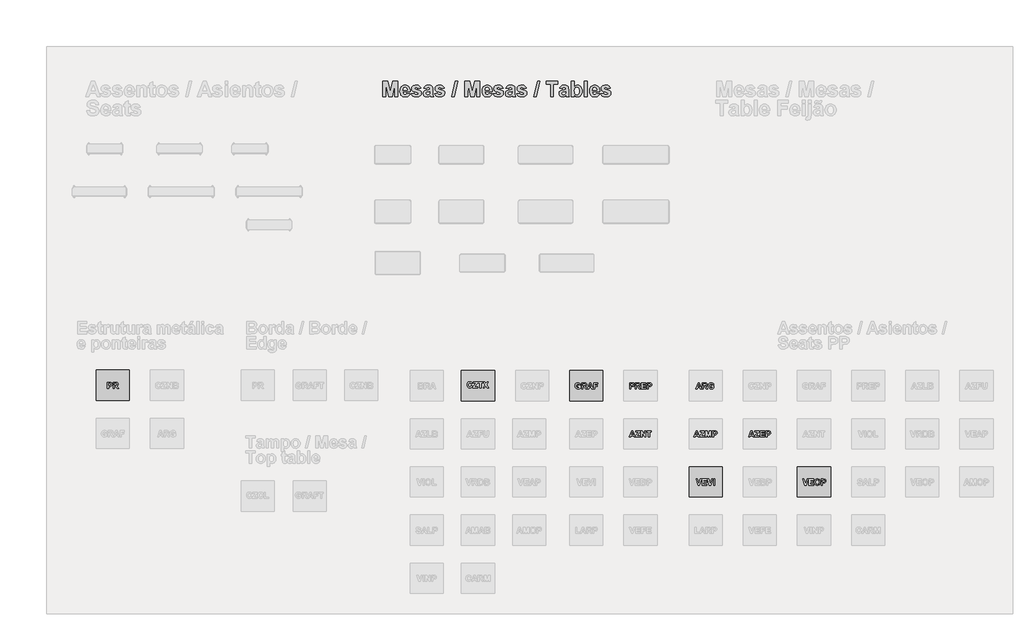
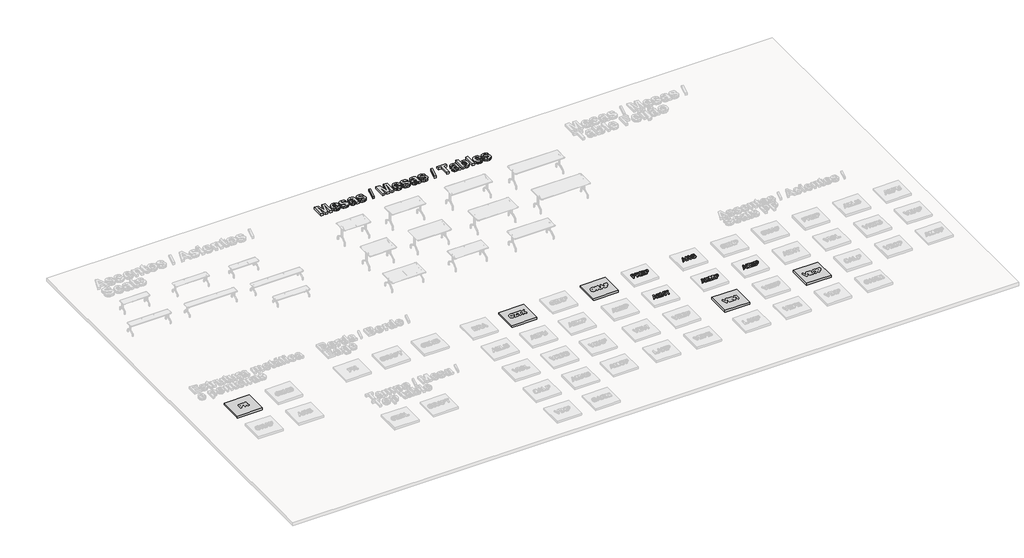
# One storey, part 8 of 11: 11 proxies.
"""IFC4 building model written with IfcOpenShell, lengths in millimetres."""

from ifc_helpers import new_model, si_unit, frame, origin, origin_with_axes, place, context, project, spatial, polyline, outline, extrude, transform, mapped, element, save
from components import generic_models_11_generic_models_1_9f7aef5a, generic_models_13_generic_models_1_7978a0e2, generic_models_16_generic_models_1_5fc1a513, generic_models_51_generic_models_1_611fd263, generic_models_52_generic_models_1_02ef8fb8

model = new_model("IFC4")

# Units and contexts
model_context = context("Model", 3, world=origin())
ifc_project = project(units=[si_unit("LENGTHUNIT", "METRE", prefix="MILLI")], contexts=[model_context])

# Site, building, storey
site = spatial("IfcSite", under=ifc_project)
building = spatial("IfcBuilding", under=site)
storey = spatial("IfcBuildingStorey", under=building, Name="Biblioteca BIM Revit Metadil - Refeitório", Elevation=0.0)

# Proxies
placement = place(None, origin())
element("IfcBuildingElementProxy", 1, Name="Arial 200mm", ObjectType="Arial 200mm", at=placement, inside=storey, context=model_context, shape_type="SweptSolid", body=[
    extrude(outline(polyline([(758.6917836, 1948.6533221), (758.6917836, 2152.7052021), (824.4317122, 2152.7052021), (873.1673174, 2149.6687158), (889.2037607, 2142.4254307), (902.3934981, 2129.8050345), (911.2182865, 2112.2756521), (914.1598826, 2090.3054084), (912.432881, 2073.1176307), (907.2518762, 2058.9030792), (899.4076199, 2047.5415596), (889.6908638, 2038.9128776), (868.0558988, 2029.2720336), (824.7859689, 2026.3873716), (797.5588083, 2026.3873716), (797.5588083, 1948.6533221), (758.6917836, 1948.6533221)]), holes=[polyline([(797.5588083, 2117.077096), (797.5588083, 2062.0154776), (821.6988745, 2062.0154776), (856.5425549, 2065.0519639), (870.3079595, 2074.5915918), (875.2928578, 2089.6981112), (873.5405522, 2099.3516072), (868.2836353, 2107.1579074), (850.5961025, 2115.7612853), (818.8648206, 2117.077096), (797.5588083, 2117.077096)])]), frame((0.0, 0.0, 100.0), z_axis=(0.0, 0.0, 1.0), x_axis=(1.0, 0.0, 0.0)), (0.0, 0.0, 1.0), 50.0),
    extrude(outline(polyline([(946.5490699, 1948.6533221), (946.5490699, 2152.7052021), (1032.3804162, 2152.7052021), (1060.3413943, 2151.3261312), (1079.445954, 2147.1889186), (1092.6546695, 2139.5217907), (1102.9281148, 2127.5529738), (1109.5324726, 2112.4084983), (1111.7339251, 2095.2143946), (1108.5519405, 2074.1487708), (1099.0059867, 2057.1064914), (1083.1213677, 2044.85933), (1060.9233876, 2038.1790601), (1081.3184539, 2021.1747368), (1102.9787229, 1988.2288603), (1127.9285188, 1948.6533221), (1082.5330485, 1948.6533221), (1052.977915, 1995.2633869), (1029.7740988, 2022.9207164), (1016.5147753, 2030.7396686), (994.3231212, 2032.8652091), (985.4160947, 2032.8652091), (985.4160947, 1948.6533221), (946.5490699, 1948.6533221)]), holes=[polyline([(985.4160947, 2068.4933151), (1017.4510252, 2068.4933151), (1056.343354, 2070.846592), (1068.4892993, 2078.9438888), (1072.8669004, 2093.2912866), (1071.4245694, 2102.0275108), (1067.0975764, 2108.9038871), (1050.8017665, 2116.4191907), (1019.2223089, 2117.077096), (985.4160947, 2117.077096), (985.4160947, 2068.4933151)])]), frame((0.0, 0.0, 100.0), z_axis=(0.0, 0.0, 1.0), x_axis=(1.0, 0.0, 0.0)), (0.0, 0.0, 1.0), 50.0),
    extrude(outline(polyline([(1150.6009499, 1948.6533221), (1150.6009499, 2152.7052021), (1302.8301302, 2152.7052021), (1302.8301302, 2117.077096), (1189.4679746, 2117.077096), (1189.4679746, 2071.7322338), (1296.3522927, 2071.7322338), (1296.3522927, 2036.1041278), (1189.4679746, 2036.1041278), (1189.4679746, 1984.2814281), (1306.0690489, 1984.2814281), (1306.0690489, 1948.6533221), (1150.6009499, 1948.6533221)])), frame((0.0, 0.0, 100.0), z_axis=(0.0, 0.0, 1.0), x_axis=(1.0, 0.0, 0.0)), (0.0, 0.0, 1.0), 50.0),
    extrude(outline(polyline([(1338.4582362, 1948.6533221), (1338.4582362, 2152.7052021), (1404.1981648, 2152.7052021), (1452.9337701, 2149.6687158), (1468.9702134, 2142.4254307), (1482.1599508, 2129.8050345), (1490.9847392, 2112.2756521), (1493.9263353, 2090.3054084), (1492.1993337, 2073.1176307), (1487.0183289, 2058.9030792), (1479.1740726, 2047.5415596), (1469.4573164, 2038.9128776), (1447.8223515, 2029.2720336), (1404.5524216, 2026.3873716), (1377.325261, 2026.3873716), (1377.325261, 1948.6533221), (1338.4582362, 1948.6533221)]), holes=[polyline([(1377.325261, 2117.077096), (1377.325261, 2062.0154776), (1401.4653272, 2062.0154776), (1436.3090076, 2065.0519639), (1450.0744122, 2074.5915918), (1455.0593105, 2089.6981112), (1453.3070049, 2099.3516072), (1448.0500879, 2107.1579074), (1430.3625552, 2115.7612853), (1398.6312733, 2117.077096), (1377.325261, 2117.077096)])]), frame((0.0, 0.0, 100.0), z_axis=(0.0, 0.0, 1.0), x_axis=(1.0, 0.0, 0.0)), (0.0, 0.0, 1.0), 50.0),
])
element("IfcBuildingElementProxy", 2, Name="Arial 200mm", ObjectType="Arial 200mm", at=placement, inside=storey, context=model_context, shape_type="SweptSolid", body=[
    extrude(outline(polyline([(946.5490699, 348.6533221), (905.708329, 348.6533221), (889.7161678, 393.9981843), (812.6400237, 393.9981843), (796.8502948, 348.6533221), (755.4528648, 348.6533221), (829.9479956, 552.7052021), (871.3454256, 552.7052021), (946.5490699, 348.6533221)]), holes=[polyline([(877.2665739, 429.6262903), (851.0009674, 504.1214211), (825.0896175, 429.6262903), (877.2665739, 429.6262903)])]), frame((0.0, 0.0, 100.0), z_axis=(0.0, 0.0, 1.0), x_axis=(1.0, 0.0, 0.0)), (0.0, 0.0, 1.0), 50.0),
    extrude(outline(polyline([(949.7879886, 348.6533221), (949.7879886, 387.5203468), (1059.1521039, 517.077096), (962.7436635, 517.077096), (962.7436635, 552.7052021), (1108.4950064, 552.7052021), (1108.4950064, 517.077096), (996.3980535, 384.2814281), (1111.7339251, 384.2814281), (1111.7339251, 348.6533221), (949.7879886, 348.6533221)])), frame((0.0, 0.0, 100.0), z_axis=(0.0, 0.0, 1.0), x_axis=(1.0, 0.0, 0.0)), (0.0, 0.0, 1.0), 50.0),
    extrude(outline(polyline([(1137.645275, 348.6533221), (1137.645275, 552.7052021), (1178.3847996, 552.7052021), (1263.9631054, 415.3548047), (1263.9631054, 552.7052021), (1302.8301302, 552.7052021), (1302.8301302, 348.6533221), (1260.8254029, 348.6533221), (1176.5122997, 483.9793953), (1176.5122997, 348.6533221), (1137.645275, 348.6533221)])), frame((0.0, 0.0, 100.0), z_axis=(0.0, 0.0, 1.0), x_axis=(1.0, 0.0, 0.0)), (0.0, 0.0, 1.0), 50.0),
    extrude(outline(polyline([(1387.0420172, 348.6533221), (1387.0420172, 517.077096), (1328.74148, 517.077096), (1328.74148, 552.7052021), (1484.2095791, 552.7052021), (1484.2095791, 517.077096), (1425.9090419, 517.077096), (1425.9090419, 348.6533221), (1387.0420172, 348.6533221)])), frame((0.0, 0.0, 100.0), z_axis=(0.0, 0.0, 1.0), x_axis=(1.0, 0.0, 0.0)), (0.0, 0.0, 1.0), 50.0),
])
element("IfcBuildingElementProxy", 3, Name="Arial 200mm", ObjectType="Arial 200mm", at=placement, inside=storey, context=model_context, shape_type="SweptSolid", body=[
    extrude(outline(polyline([(3154.4389795, 1948.6533221), (3113.5982386, 1948.6533221), (3097.6060774, 1993.9981843), (3020.5299333, 1993.9981843), (3004.7402044, 1948.6533221), (2963.3427744, 1948.6533221), (3037.8379052, 2152.7052021), (3079.2353352, 2152.7052021), (3154.4389795, 1948.6533221)]), holes=[polyline([(3085.1564835, 2029.6262903), (3058.890877, 2104.1214211), (3032.9795271, 2029.6262903), (3085.1564835, 2029.6262903)])]), frame((0.0, 0.0, 100.0), z_axis=(0.0, 0.0, 1.0), x_axis=(1.0, 0.0, 0.0)), (0.0, 0.0, 1.0), 50.0),
    extrude(outline(polyline([(3173.8724919, 1948.6533221), (3173.8724919, 2152.7052021), (3259.7038382, 2152.7052021), (3287.6648163, 2151.3261312), (3306.769376, 2147.1889186), (3319.9780915, 2139.5217907), (3330.2515368, 2127.5529738), (3336.8558945, 2112.4084983), (3339.0573471, 2095.2143946), (3335.8753625, 2074.1487708), (3326.3294087, 2057.1064914), (3310.4447897, 2044.85933), (3288.2468095, 2038.1790601), (3308.6418759, 2021.1747368), (3330.3021449, 1988.2288603), (3355.2519408, 1948.6533221), (3309.8564704, 1948.6533221), (3280.301337, 1995.2633869), (3257.0975208, 2022.9207164), (3243.8381973, 2030.7396686), (3221.6465431, 2032.8652091), (3212.7395166, 2032.8652091), (3212.7395166, 1948.6533221), (3173.8724919, 1948.6533221)]), holes=[polyline([(3212.7395166, 2068.4933151), (3244.7744472, 2068.4933151), (3283.666776, 2070.846592), (3295.8127213, 2078.9438888), (3300.1903224, 2093.2912866), (3298.7479914, 2102.0275108), (3294.4209984, 2108.9038871), (3278.1251885, 2116.4191907), (3246.5457309, 2117.077096), (3212.7395166, 2117.077096), (3212.7395166, 2068.4933151)])]), frame((0.0, 0.0, 100.0), z_axis=(0.0, 0.0, 1.0), x_axis=(1.0, 0.0, 0.0)), (0.0, 0.0, 1.0), 50.0),
    extrude(outline(polyline([(3471.853015, 2023.1484529), (3471.853015, 2058.7765589), (3559.3038208, 2058.7765589), (3559.3038208, 1977.3987258), (3543.6912203, 1965.461539), (3522.359904, 1955.0552474), (3498.0174054, 1947.8246144), (3473.3712582, 1945.4144034), (3443.904689, 1948.7671903), (3418.4614641, 1958.8255512), (3397.9398775, 1975.1150351), (3383.2382229, 1997.1611909), (3374.3944565, 2023.1800829), (3371.4465344, 2051.3877755), (3374.7803433, 2081.4047079), (3384.7817701, 2107.891725), (3401.2104263, 2129.7354483), (3423.8259232, 2145.8224998), (3445.8151449, 2153.4137155), (3472.6121366, 2155.9441208), (3506.3740688, 2151.8575163), (3531.8489237, 2139.5977028), (3549.3783061, 2120.1262344), (3559.3038208, 2094.4046649), (3520.436796, 2087.9268275), (3513.8956984, 2101.3696054), (3503.3818646, 2111.6367247), (3489.3254633, 2118.1461923), (3472.1566637, 2120.3160148), (3446.7134388, 2116.077586), (3427.064842, 2103.3622995), (3414.5013799, 2082.2966758), (3410.3135592, 2053.0072349), (3414.4760758, 2021.5226675), (3426.9636258, 1999.0336908), (3446.2073578, 1985.5403047), (3470.6384205, 1981.0425094), (3497.3848041, 1985.9767996), (3520.436796, 1997.9456165), (3520.436796, 2023.1484529), (3471.853015, 2023.1484529)])), frame((0.0, 0.0, 100.0), z_axis=(0.0, 0.0, 1.0), x_axis=(1.0, 0.0, 0.0)), (0.0, 0.0, 1.0), 50.0),
])
element("IfcBuildingElementProxy", 4, Name="Arial 200mm", ObjectType="Arial 200mm", at=placement, inside=storey, context=model_context, shape_type="SweptSolid", body=[
    extrude(outline(polyline([(3084.7117238, 348.6533221), (3043.870983, 348.6533221), (3027.8788218, 393.9981843), (2950.8026776, 393.9981843), (2935.0129488, 348.6533221), (2893.6155188, 348.6533221), (2968.1106496, 552.7052021), (3009.5080796, 552.7052021), (3084.7117238, 348.6533221)]), holes=[polyline([(3015.4292279, 429.6262903), (2989.1636213, 504.1214211), (2963.2522715, 429.6262903), (3015.4292279, 429.6262903)])]), frame((0.0, 0.0, 100.0), z_axis=(0.0, 0.0, 1.0), x_axis=(1.0, 0.0, 0.0)), (0.0, 0.0, 1.0), 50.0),
    extrude(outline(polyline([(3087.9506426, 348.6533221), (3087.9506426, 387.5203468), (3197.3147578, 517.077096), (3100.9063175, 517.077096), (3100.9063175, 552.7052021), (3246.6576603, 552.7052021), (3246.6576603, 517.077096), (3134.5607074, 384.2814281), (3249.8965791, 384.2814281), (3249.8965791, 348.6533221), (3087.9506426, 348.6533221)])), frame((0.0, 0.0, 100.0), z_axis=(0.0, 0.0, 1.0), x_axis=(1.0, 0.0, 0.0)), (0.0, 0.0, 1.0), 50.0),
    extrude(outline(polyline([(3275.8079289, 348.6533221), (3275.8079289, 552.7052021), (3342.4081953, 552.7052021), (3374.5949502, 413.5329129), (3406.7817051, 552.7052021), (3473.3819714, 552.7052021), (3473.3819714, 348.6533221), (3434.5149467, 348.6533221), (3432.8954873, 509.2834478), (3397.3685975, 348.6533221), (3351.871911, 348.6533221), (3316.294413, 509.2834478), (3314.6749537, 348.6533221), (3275.8079289, 348.6533221)])), frame((0.0, 0.0, 100.0), z_axis=(0.0, 0.0, 1.0), x_axis=(1.0, 0.0, 0.0)), (0.0, 0.0, 1.0), 50.0),
    extrude(outline(polyline([(3512.2489962, 348.6533221), (3512.2489962, 552.7052021), (3577.9889248, 552.7052021), (3626.7245301, 549.6687158), (3642.7609734, 542.4254307), (3655.9507108, 529.8050345), (3664.7754991, 512.2756521), (3667.7170952, 490.3054084), (3665.9900937, 473.1176307), (3660.8090889, 458.9030792), (3652.9648326, 447.5415596), (3643.2480764, 438.9128776), (3621.6131114, 429.2720336), (3578.3431815, 426.3873716), (3551.116021, 426.3873716), (3551.116021, 348.6533221), (3512.2489962, 348.6533221)]), holes=[polyline([(3551.116021, 517.077096), (3551.116021, 462.0154776), (3575.2560871, 462.0154776), (3610.0997675, 465.0519639), (3623.8651721, 474.5915918), (3628.8500705, 489.6981112), (3627.0977648, 499.3516072), (3621.8408479, 507.1579074), (3604.1533152, 515.7612853), (3572.4220332, 517.077096), (3551.116021, 517.077096)])]), frame((0.0, 0.0, 100.0), z_axis=(0.0, 0.0, 1.0), x_axis=(1.0, 0.0, 0.0)), (0.0, 0.0, 1.0), 50.0),
])
element("IfcBuildingElementProxy", 5, Name="Arial 200mm", ObjectType="Arial 200mm", at=placement, inside=storey, context=model_context, shape_type="SweptSolid", body=[
    extrude(outline(polyline([(4909.0036143, 348.6533221), (4868.1628735, 348.6533221), (4852.1707122, 393.9981843), (4775.0945681, 393.9981843), (4759.3048393, 348.6533221), (4717.9074092, 348.6533221), (4792.40254, 552.7052021), (4833.7999701, 552.7052021), (4909.0036143, 348.6533221)]), holes=[polyline([(4839.7211184, 429.6262903), (4813.4555118, 504.1214211), (4787.5441619, 429.6262903), (4839.7211184, 429.6262903)])]), frame((0.0, 0.0, 100.0), z_axis=(0.0, 0.0, 1.0), x_axis=(1.0, 0.0, 0.0)), (0.0, 0.0, 1.0), 50.0),
    extrude(outline(polyline([(4912.242533, 348.6533221), (4912.242533, 387.5203468), (5021.6066483, 517.077096), (4925.198208, 517.077096), (4925.198208, 552.7052021), (5070.9495508, 552.7052021), (5070.9495508, 517.077096), (4958.8525979, 384.2814281), (5074.1884695, 384.2814281), (5074.1884695, 348.6533221), (4912.242533, 348.6533221)])), frame((0.0, 0.0, 100.0), z_axis=(0.0, 0.0, 1.0), x_axis=(1.0, 0.0, 0.0)), (0.0, 0.0, 1.0), 50.0),
    extrude(outline(polyline([(5100.0998194, 348.6533221), (5100.0998194, 552.7052021), (5252.3289997, 552.7052021), (5252.3289997, 517.077096), (5138.9668441, 517.077096), (5138.9668441, 471.7322338), (5245.8511622, 471.7322338), (5245.8511622, 436.1041278), (5138.9668441, 436.1041278), (5138.9668441, 384.2814281), (5255.5679184, 384.2814281), (5255.5679184, 348.6533221), (5100.0998194, 348.6533221)])), frame((0.0, 0.0, 100.0), z_axis=(0.0, 0.0, 1.0), x_axis=(1.0, 0.0, 0.0)), (0.0, 0.0, 1.0), 50.0),
    extrude(outline(polyline([(5287.9571057, 348.6533221), (5287.9571057, 552.7052021), (5353.6970343, 552.7052021), (5402.4326396, 549.6687158), (5418.4690829, 542.4254307), (5431.6588203, 529.8050345), (5440.4836087, 512.2756521), (5443.4252048, 490.3054084), (5441.6982032, 473.1176307), (5436.5171984, 458.9030792), (5428.6729421, 447.5415596), (5418.9561859, 438.9128776), (5397.321221, 429.2720336), (5354.0512911, 426.3873716), (5326.8241305, 426.3873716), (5326.8241305, 348.6533221), (5287.9571057, 348.6533221)]), holes=[polyline([(5326.8241305, 517.077096), (5326.8241305, 462.0154776), (5350.9641966, 462.0154776), (5385.807877, 465.0519639), (5399.5732817, 474.5915918), (5404.55818, 489.6981112), (5402.8058744, 499.3516072), (5397.5489574, 507.1579074), (5379.8614247, 515.7612853), (5348.1301428, 517.077096), (5326.8241305, 517.077096)])]), frame((0.0, 0.0, 100.0), z_axis=(0.0, 0.0, 1.0), x_axis=(1.0, 0.0, 0.0)), (0.0, 0.0, 1.0), 50.0),
])
element("IfcBuildingElementProxy", 6, Name="Arial 500mm", ObjectType="Arial 500mm", at=placement, inside=storey, context=model_context, shape_type="SweptSolid", body=[
    extrude(outline(polyline([(-7439.0541309, 11668.448354), (-7439.0541309, 12178.5780539), (-7272.5534649, 12178.5780539), (-7192.0865777, 11830.647331), (-7111.6196906, 12178.5780539), (-6945.1190246, 12178.5780539), (-6945.1190246, 11668.448354), (-7042.2865865, 11668.448354), (-7046.3352349, 12070.0236684), (-7135.1524594, 11668.448354), (-7248.8941758, 11668.448354), (-7337.8379206, 12070.0236684), (-7341.886569, 11668.448354), (-7439.0541309, 11668.448354)])), origin_with_axes(), (0.0, 0.0, 1.0), 100.0),
    extrude(outline(polyline([(-6637.4217452, 11781.8105095), (-6540.2541833, 11765.6159159), (-6550.7553652, 11741.4070543), (-6563.9134725, 11720.2742166), (-6579.7285054, 11702.2174029), (-6598.2004637, 11687.236613), (-6619.242365, 11675.4741823), (-6642.7672263, 11667.0724461), (-6668.7750479, 11662.0314044), (-6697.2658296, 11660.3510571), (-6741.2711585, 11664.3127229), (-6779.1560697, 11676.1977201), (-6810.9205632, 11696.0060487), (-6836.564639, 11723.7377088), (-6852.1740765, 11750.7735075), (-6863.3236746, 11781.1462781), (-6870.0134335, 11814.8560207), (-6872.2433532, 11851.9027352), (-6869.285942, 11895.5838559), (-6860.4137086, 11934.2674263), (-6845.6266529, 11967.9534463), (-6824.9247748, 11996.6419159), (-6799.6997974, 12019.5578985), (-6771.3434435, 12035.9264575), (-6739.8557131, 12045.7475929), (-6705.2366061, 12049.0213047), (-6666.7665387, 12045.6606103), (-6632.5823452, 12035.5785268), (-6602.6840256, 12018.7750544), (-6577.0715798, 11995.250193), (-6556.6622799, 11964.7825322), (-6542.3733977, 11927.1506615), (-6534.2049333, 11882.3545809), (-6532.1568865, 11830.3942905), (-6775.0757913, 11830.3942905), (-6768.8446683, 11789.4649854), (-6761.8148862, 11772.8433859), (-6752.1756237, 11758.7838217), (-6740.559482, 11747.6025934), (-6727.5990626, 11739.6160018), (-6713.2943654, 11734.8240469), (-6697.6453904, 11733.2267286), (-6677.243998, 11736.1050645), (-6660.3219128, 11744.7400725), (-6647.0056551, 11759.7643537), (-6637.4217452, 11781.8105095)]), holes=[polyline([(-6629.3244484, 11887.0753682), (-6635.2392707, 11925.4900831), (-6641.873677, 11940.7713586), (-6650.9594134, 11953.4352461), (-6673.7963208, 11970.4680365), (-6701.0614375, 11976.1456333), (-6716.1331638, 11974.6511127), (-6729.8447973, 11970.1675509), (-6742.1963379, 11962.6949479), (-6753.1877858, 11952.2333036), (-6762.1390944, 11939.1463639), (-6768.4967376, 11923.9243948), (-6773.4310278, 11887.0753682), (-6629.3244484, 11887.0753682)])]), origin_with_axes(), (0.0, 0.0, 1.0), 100.0),
    extrude(outline(polyline([(-6499.7676992, 11773.7132127), (-6402.6001373, 11789.9078063), (-6393.3483431, 11765.4261355), (-6377.7389056, 11747.6500385), (-6355.2341139, 11736.8325561), (-6325.2962567, 11733.2267286), (-6292.8121792, 11736.6744057), (-6269.5008207, 11747.0174372), (-6260.011801, 11758.2777406), (-6256.8487945, 11772.8275708), (-6258.5251879, 11782.8859317), (-6263.5543684, 11791.0464887), (-6275.0360822, 11797.7204326), (-6295.3109544, 11803.8250353), (-6389.1573594, 11828.6862669), (-6420.3050666, 11840.3103161), (-6440.935777, 11851.3966541), (-6459.5896082, 11867.9154559), (-6472.9137734, 11887.3600388), (-6480.9082725, 11909.7304028), (-6483.5731056, 11935.0265479), (-6481.2878333, 11958.1718485), (-6474.4320166, 11979.4035301), (-6463.0056553, 11998.7215927), (-6447.0087496, 12016.1260364), (-6426.2040739, 12030.5177163), (-6400.3544026, 12040.7974877), (-6369.4597359, 12046.9653505), (-6333.5200738, 12049.0213047), (-6299.3042502, 12047.3607263), (-6269.7854913, 12042.3789909), (-6244.9637973, 12034.0760987), (-6224.8391679, 12022.4520495), (-6208.4468864, 12007.5701036), (-6194.8222356, 11989.493521), (-6183.9652155, 11968.2223019), (-6175.8758262, 11943.756446), (-6273.0433881, 11927.5618524), (-6280.191783, 11948.3428055), (-6291.768387, 11963.6201273), (-6308.4690617, 11973.0142568), (-6330.9896685, 11976.1456333), (-6358.665976, 11973.4887078), (-6377.1695645, 11965.5179312), (-6384.0965489, 11956.7880331), (-6386.4055437, 11945.7807702), (-6384.0965489, 11936.2601204), (-6377.1695645, 11928.1944537), (-6349.4774419, 11916.5862196), (-6291.1990458, 11900.9925972), (-6228.7454811, 11881.3503263), (-6205.8571748, 11869.9872252), (-6188.5278525, 11857.596147), (-6175.9074563, 11843.2123746), (-6166.8928875, 11826.2507519), (-6161.4841463, 11806.7112788), (-6159.6812326, 11784.5939553), (-6162.2946667, 11759.9976254), (-6170.1349693, 11737.1963018), (-6183.2021402, 11716.1899844), (-6201.4961794, 11696.9786732), (-6224.9142894, 11680.9540912), (-6253.3536722, 11669.5079612), (-6286.814328, 11662.6402831), (-6325.2962567, 11660.3510571), (-6360.5519187, 11662.2567686), (-6391.9249901, 11667.973903), (-6419.415471, 11677.5024603), (-6443.0233613, 11690.8424405), (-6462.8198287, 11707.4561325), (-6478.8760408, 11726.8058252), (-6491.1919976, 11748.8915186), (-6499.7676992, 11773.7132127)])), origin_with_axes(), (0.0, 0.0, 1.0), 100.0),
    extrude(outline(polyline([(-5989.6379992, 11927.5618524), (-6078.7082643, 11943.756446), (-6070.3381582, 11968.8390881), (-6059.3981092, 11990.442423), (-6045.8881174, 12008.5664507), (-6029.8081827, 12023.2111711), (-6010.343831, 12034.5031046), (-5986.6805881, 12042.5687713), (-5958.8184539, 12047.4081714), (-5926.7574286, 12049.0213047), (-5872.575126, 12045.1149916), (-5834.2711164, 12033.3960523), (-5808.3977226, 12015.6832155), (-5791.5072675, 11993.79521), (-5782.2080282, 11959.7770743), (-5779.1082818, 11905.6738469), (-5779.1082818, 11790.7934482), (-5777.8272641, 11748.1561196), (-5773.9842111, 11718.4238578), (-5766.6302208, 11694.2901177), (-5754.8163913, 11668.448354), (-5851.9839532, 11668.448354), (-5861.0934121, 11699.3192981), (-5864.5094592, 11711.5917636), (-5889.6553615, 11689.2134921), (-5916.5092873, 11673.1928638), (-5945.1344968, 11663.5615088), (-5975.59425, 11660.3510571), (-6001.8353433, 11662.3002599), (-6025.142748, 11668.1478683), (-6045.5164641, 11677.8938823), (-6062.9564916, 11691.5383019), (-6076.9330269, 11708.1559477), (-6086.9162664, 11726.8216403), (-6092.9062101, 11747.5353795), (-6094.902858, 11770.2971656), (-6091.3444756, 11800.0926875), (-6080.6693284, 11826.4721623), (-6063.5732779, 11848.2652776), (-6040.7521854, 11864.3017209), (-6009.4067903, 11876.6058165), (-5966.7378316, 11887.2018885), (-5911.4801068, 11899.6957645), (-5876.2758437, 11911.3672587), (-5876.2758437, 11921.6154), (-5879.296515, 11946.8561925), (-5888.3585288, 11963.6201273), (-5905.77088, 11973.0142568), (-5933.8425633, 11976.1456333), (-5953.9909152, 11973.4570777), (-5969.1417166, 11965.391411), (-5980.5918004, 11950.5569101), (-5989.6379992, 11927.5618524)]), holes=[polyline([(-5876.2758437, 11838.4915873), (-5931.0591175, 11825.0171793), (-5962.0565819, 11817.2836282), (-5980.1489795, 11809.6449673), (-5993.3387169, 11795.8226286), (-5997.7352961, 11778.6475029), (-5994.2085437, 11761.4249322), (-5983.6282867, 11746.7011366), (-5967.6076585, 11736.5953306), (-5947.7597922, 11733.2267286), (-5923.9423527, 11737.1488567), (-5901.3268557, 11748.9152412), (-5887.7259275, 11762.1366086), (-5879.818411, 11778.0149016), (-5876.2758437, 11820.9052707), (-5876.2758437, 11838.4915873)])]), origin_with_axes(), (0.0, 0.0, 1.0), 100.0),
    extrude(outline(polyline([(-5722.427204, 11773.7132127), (-5625.2596421, 11789.9078063), (-5616.0078479, 11765.4261355), (-5600.3984104, 11747.6500385), (-5577.8936187, 11736.8325561), (-5547.9557615, 11733.2267286), (-5515.471684, 11736.6744057), (-5492.1603255, 11747.0174372), (-5482.6713058, 11758.2777406), (-5479.5082993, 11772.8275708), (-5481.1846927, 11782.8859317), (-5486.2138732, 11791.0464887), (-5497.695587, 11797.7204326), (-5517.9704592, 11803.8250353), (-5611.8168642, 11828.6862669), (-5642.9645714, 11840.3103161), (-5663.5952818, 11851.3966541), (-5682.249113, 11867.9154559), (-5695.5732782, 11887.3600388), (-5703.5677773, 11909.7304028), (-5706.2326104, 11935.0265479), (-5703.9473381, 11958.1718485), (-5697.0915214, 11979.4035301), (-5685.6651601, 11998.7215927), (-5669.6682544, 12016.1260364), (-5648.8635786, 12030.5177163), (-5623.0139074, 12040.7974877), (-5592.1192407, 12046.9653505), (-5556.1795786, 12049.0213047), (-5521.963755, 12047.3607263), (-5492.4449961, 12042.3789909), (-5467.6233021, 12034.0760987), (-5447.4986727, 12022.4520495), (-5431.1063912, 12007.5701036), (-5417.4817404, 11989.493521), (-5406.6247203, 11968.2223019), (-5398.535331, 11943.756446), (-5495.7028929, 11927.5618524), (-5502.8512878, 11948.3428055), (-5514.4278918, 11963.6201273), (-5531.1285665, 11973.0142568), (-5553.6491733, 11976.1456333), (-5581.3254808, 11973.4887078), (-5599.8290693, 11965.5179312), (-5606.7560537, 11956.7880331), (-5609.0650485, 11945.7807702), (-5606.7560537, 11936.2601204), (-5599.8290693, 11928.1944537), (-5572.1369467, 11916.5862196), (-5513.8585506, 11900.9925972), (-5451.4049859, 11881.3503263), (-5428.5166795, 11869.9872252), (-5411.1873573, 11857.596147), (-5398.5669611, 11843.2123746), (-5389.5523923, 11826.2507519), (-5384.1436511, 11806.7112788), (-5382.3407373, 11784.5939553), (-5384.9541715, 11759.9976254), (-5392.7944741, 11737.1963018), (-5405.861645, 11716.1899844), (-5424.1556842, 11696.9786732), (-5447.5737941, 11680.9540912), (-5476.013177, 11669.5079612), (-5509.4738328, 11662.6402831), (-5547.9557615, 11660.3510571), (-5583.2114235, 11662.2567686), (-5614.5844949, 11667.973903), (-5642.0749758, 11677.5024603), (-5665.6828661, 11690.8424405), (-5685.4793335, 11707.4561325), (-5701.5355456, 11726.8058252), (-5713.8515024, 11748.8915186), (-5722.427204, 11773.7132127)])), origin_with_axes(), (0.0, 0.0, 1.0), 100.0),
    extrude(outline(polyline([(-5149.2904131, 11668.448354), (-5027.8309607, 12178.5780539), (-4953.1840056, 12178.5780539), (-5074.643458, 11668.448354), (-5149.2904131, 11668.448354)])), origin_with_axes(), (0.0, 0.0, 1.0), 100.0),
    extrude(outline(polyline([(-4710.2651009, 11668.448354), (-4710.2651009, 12178.5780539), (-4543.7644349, 12178.5780539), (-4463.2975477, 11830.647331), (-4382.8306605, 12178.5780539), (-4216.3299945, 12178.5780539), (-4216.3299945, 11668.448354), (-4313.4975564, 11668.448354), (-4317.5462049, 12070.0236684), (-4406.3634294, 11668.448354), (-4520.1051457, 11668.448354), (-4609.0488906, 12070.0236684), (-4613.097539, 11668.448354), (-4710.2651009, 11668.448354)])), origin_with_axes(), (0.0, 0.0, 1.0), 100.0),
    extrude(outline(polyline([(-3908.6327152, 11781.8105095), (-3811.4651533, 11765.6159159), (-3821.9663351, 11741.4070543), (-3835.1244424, 11720.2742166), (-3850.9394753, 11702.2174029), (-3869.4114337, 11687.236613), (-3890.4533349, 11675.4741823), (-3913.9781963, 11667.0724461), (-3939.9860178, 11662.0314044), (-3968.4767995, 11660.3510571), (-4012.4821285, 11664.3127229), (-4050.3670397, 11676.1977201), (-4082.1315332, 11696.0060487), (-4107.775609, 11723.7377088), (-4123.3850464, 11750.7735075), (-4134.5346446, 11781.1462781), (-4141.2244035, 11814.8560207), (-4143.4543231, 11851.9027352), (-4140.496912, 11895.5838559), (-4131.6246785, 11934.2674263), (-4116.8376228, 11967.9534463), (-4096.1357448, 11996.6419159), (-4070.9107674, 12019.5578985), (-4042.5544135, 12035.9264575), (-4011.066683, 12045.7475929), (-3976.4475761, 12049.0213047), (-3937.9775087, 12045.6606103), (-3903.7933151, 12035.5785268), (-3873.8949955, 12018.7750544), (-3848.2825498, 11995.250193), (-3827.8732499, 11964.7825322), (-3813.5843677, 11927.1506615), (-3805.4159032, 11882.3545809), (-3803.3678565, 11830.3942905), (-4046.2867612, 11830.3942905), (-4040.0556383, 11789.4649854), (-4033.0258562, 11772.8433859), (-4023.3865936, 11758.7838217), (-4011.770452, 11747.6025934), (-3998.8100326, 11739.6160018), (-3984.5053353, 11734.8240469), (-3968.8563603, 11733.2267286), (-3948.4549679, 11736.1050645), (-3931.5328828, 11744.7400725), (-3918.2166251, 11759.7643537), (-3908.6327152, 11781.8105095)]), holes=[polyline([(-3900.5354184, 11887.0753682), (-3906.4502407, 11925.4900831), (-3913.0846469, 11940.7713586), (-3922.1703833, 11953.4352461), (-3945.0072908, 11970.4680365), (-3972.2724074, 11976.1456333), (-3987.3441337, 11974.6511127), (-4001.0557672, 11970.1675509), (-4013.4073079, 11962.6949479), (-4024.3987557, 11952.2333036), (-4033.3500643, 11939.1463639), (-4039.7077075, 11923.9243948), (-4044.6419978, 11887.0753682), (-3900.5354184, 11887.0753682)])]), origin_with_axes(), (0.0, 0.0, 1.0), 100.0),
    extrude(outline(polyline([(-3770.9786692, 11773.7132127), (-3673.8111073, 11789.9078063), (-3664.559313, 11765.4261355), (-3648.9498756, 11747.6500385), (-3626.4450838, 11736.8325561), (-3596.5072266, 11733.2267286), (-3564.0231491, 11736.6744057), (-3540.7117907, 11747.0174372), (-3531.222771, 11758.2777406), (-3528.0597644, 11772.8275708), (-3529.7361579, 11782.8859317), (-3534.7653383, 11791.0464887), (-3546.2470522, 11797.7204326), (-3566.5219243, 11803.8250353), (-3660.3683293, 11828.6862669), (-3691.5160366, 11840.3103161), (-3712.1467469, 11851.3966541), (-3730.8005782, 11867.9154559), (-3744.1247434, 11887.3600388), (-3752.1192425, 11909.7304028), (-3754.7840755, 11935.0265479), (-3752.4988033, 11958.1718485), (-3745.6429865, 11979.4035301), (-3734.2166253, 11998.7215927), (-3718.2197195, 12016.1260364), (-3697.4150438, 12030.5177163), (-3671.5653726, 12040.7974877), (-3640.6707059, 12046.9653505), (-3604.7310437, 12049.0213047), (-3570.5152201, 12047.3607263), (-3540.9964613, 12042.3789909), (-3516.1747672, 12034.0760987), (-3496.0501379, 12022.4520495), (-3479.6578563, 12007.5701036), (-3466.0332055, 11989.493521), (-3455.1761855, 11968.2223019), (-3447.0867962, 11943.756446), (-3544.2543581, 11927.5618524), (-3551.4027529, 11948.3428055), (-3562.979357, 11963.6201273), (-3579.6800317, 11973.0142568), (-3602.2006385, 11976.1456333), (-3629.876946, 11973.4887078), (-3648.3805344, 11965.5179312), (-3655.3075188, 11956.7880331), (-3657.6165136, 11945.7807702), (-3655.3075188, 11936.2601204), (-3648.3805344, 11928.1944537), (-3620.6884119, 11916.5862196), (-3562.4100158, 11900.9925972), (-3499.956451, 11881.3503263), (-3477.0681447, 11869.9872252), (-3459.7388225, 11857.596147), (-3447.1184262, 11843.2123746), (-3438.1038575, 11826.2507519), (-3432.6951163, 11806.7112788), (-3430.8922025, 11784.5939553), (-3433.5056367, 11759.9976254), (-3441.3459392, 11737.1963018), (-3454.4131101, 11716.1899844), (-3472.7071494, 11696.9786732), (-3496.1252593, 11680.9540912), (-3524.5646421, 11669.5079612), (-3558.0252979, 11662.6402831), (-3596.5072266, 11660.3510571), (-3631.7628886, 11662.2567686), (-3663.1359601, 11667.973903), (-3690.626441, 11677.5024603), (-3714.2343313, 11690.8424405), (-3734.0307986, 11707.4561325), (-3750.0870108, 11726.8058252), (-3762.4029676, 11748.8915186), (-3770.9786692, 11773.7132127)])), origin_with_axes(), (0.0, 0.0, 1.0), 100.0),
    extrude(outline(polyline([(-3260.8489692, 11927.5618524), (-3349.9192343, 11943.756446), (-3341.5491281, 11968.8390881), (-3330.6090791, 11990.442423), (-3317.0990873, 12008.5664507), (-3301.0191527, 12023.2111711), (-3281.554801, 12034.5031046), (-3257.891558, 12042.5687713), (-3230.0294239, 12047.4081714), (-3197.9683985, 12049.0213047), (-3143.7860959, 12045.1149916), (-3105.4820864, 12033.3960523), (-3079.6086926, 12015.6832155), (-3062.7182375, 11993.79521), (-3053.4189982, 11959.7770743), (-3050.3192517, 11905.6738469), (-3050.3192517, 11790.7934482), (-3049.0382341, 11748.1561196), (-3045.1951811, 11718.4238578), (-3037.8411908, 11694.2901177), (-3026.0273613, 11668.448354), (-3123.1949232, 11668.448354), (-3132.3043821, 11699.3192981), (-3135.7204292, 11711.5917636), (-3160.8663314, 11689.2134921), (-3187.7202572, 11673.1928638), (-3216.3454667, 11663.5615088), (-3246.80522, 11660.3510571), (-3273.0463133, 11662.3002599), (-3296.353718, 11668.1478683), (-3316.727434, 11677.8938823), (-3334.1674615, 11691.5383019), (-3348.1439968, 11708.1559477), (-3358.1272363, 11726.8216403), (-3364.11718, 11747.5353795), (-3366.1138279, 11770.2971656), (-3362.5554455, 11800.0926875), (-3351.8802983, 11826.4721623), (-3334.7842478, 11848.2652776), (-3311.9631554, 11864.3017209), (-3280.6177603, 11876.6058165), (-3237.9488016, 11887.2018885), (-3182.6910768, 11899.6957645), (-3147.4868136, 11911.3672587), (-3147.4868136, 11921.6154), (-3150.5074849, 11946.8561925), (-3159.5694987, 11963.6201273), (-3176.9818499, 11973.0142568), (-3205.0535333, 11976.1456333), (-3225.2018851, 11973.4570777), (-3240.3526866, 11965.391411), (-3251.8027704, 11950.5569101), (-3260.8489692, 11927.5618524)]), holes=[polyline([(-3147.4868136, 11838.4915873), (-3202.2700875, 11825.0171793), (-3233.2675519, 11817.2836282), (-3251.3599495, 11809.6449673), (-3264.5496869, 11795.8226286), (-3268.946266, 11778.6475029), (-3265.4195137, 11761.4249322), (-3254.8392567, 11746.7011366), (-3238.8186284, 11736.5953306), (-3218.9707622, 11733.2267286), (-3195.1533227, 11737.1488567), (-3172.5378257, 11748.9152412), (-3158.9368974, 11762.1366086), (-3151.029381, 11778.0149016), (-3147.4868136, 11820.9052707), (-3147.4868136, 11838.4915873)])]), origin_with_axes(), (0.0, 0.0, 1.0), 100.0),
    extrude(outline(polyline([(-2993.638174, 11773.7132127), (-2896.4706121, 11789.9078063), (-2887.2188178, 11765.4261355), (-2871.6093804, 11747.6500385), (-2849.1045886, 11736.8325561), (-2819.1667314, 11733.2267286), (-2786.6826539, 11736.6744057), (-2763.3712955, 11747.0174372), (-2753.8822758, 11758.2777406), (-2750.7192692, 11772.8275708), (-2752.3956627, 11782.8859317), (-2757.4248431, 11791.0464887), (-2768.906557, 11797.7204326), (-2789.1814291, 11803.8250353), (-2883.0278341, 11828.6862669), (-2914.1755413, 11840.3103161), (-2934.8062517, 11851.3966541), (-2953.460083, 11867.9154559), (-2966.7842482, 11887.3600388), (-2974.7787473, 11909.7304028), (-2977.4435803, 11935.0265479), (-2975.1583081, 11958.1718485), (-2968.3024913, 11979.4035301), (-2956.8761301, 11998.7215927), (-2940.8792243, 12016.1260364), (-2920.0745486, 12030.5177163), (-2894.2248774, 12040.7974877), (-2863.3302107, 12046.9653505), (-2827.3905485, 12049.0213047), (-2793.1747249, 12047.3607263), (-2763.6559661, 12042.3789909), (-2738.834272, 12034.0760987), (-2718.7096427, 12022.4520495), (-2702.3173611, 12007.5701036), (-2688.6927103, 11989.493521), (-2677.8356903, 11968.2223019), (-2669.746301, 11943.756446), (-2766.9138629, 11927.5618524), (-2774.0622577, 11948.3428055), (-2785.6388618, 11963.6201273), (-2802.3395365, 11973.0142568), (-2824.8601433, 11976.1456333), (-2852.5364508, 11973.4887078), (-2871.0400392, 11965.5179312), (-2877.9670236, 11956.7880331), (-2880.2760184, 11945.7807702), (-2877.9670236, 11936.2601204), (-2871.0400392, 11928.1944537), (-2843.3479167, 11916.5862196), (-2785.0695206, 11900.9925972), (-2722.6159558, 11881.3503263), (-2699.7276495, 11869.9872252), (-2682.3983272, 11857.596147), (-2669.777931, 11843.2123746), (-2660.7633623, 11826.2507519), (-2655.3546211, 11806.7112788), (-2653.5517073, 11784.5939553), (-2656.1651415, 11759.9976254), (-2664.005444, 11737.1963018), (-2677.0726149, 11716.1899844), (-2695.3666542, 11696.9786732), (-2718.7847641, 11680.9540912), (-2747.2241469, 11669.5079612), (-2780.6848027, 11662.6402831), (-2819.1667314, 11660.3510571), (-2854.4223934, 11662.2567686), (-2885.7954649, 11667.973903), (-2913.2859457, 11677.5024603), (-2936.8938361, 11690.8424405), (-2956.6903034, 11707.4561325), (-2972.7465155, 11726.8058252), (-2985.0624724, 11748.8915186), (-2993.638174, 11773.7132127)])), origin_with_axes(), (0.0, 0.0, 1.0), 100.0),
    extrude(outline(polyline([(-2420.5013831, 11668.448354), (-2299.0419307, 12178.5780539), (-2224.3949756, 12178.5780539), (-2345.854428, 11668.448354), (-2420.5013831, 11668.448354)])), origin_with_axes(), (0.0, 0.0, 1.0), 100.0),
    extrude(outline(polyline([(-1868.1139153, 11668.448354), (-1868.1139153, 12089.5077889), (-2013.8652581, 12089.5077889), (-2013.8652581, 12178.5780539), (-1625.1950105, 12178.5780539), (-1625.1950105, 12089.5077889), (-1770.9463534, 12089.5077889), (-1770.9463534, 11668.448354), (-1868.1139153, 11668.448354)])), origin_with_axes(), (0.0, 0.0, 1.0), 100.0),
    extrude(outline(polyline([(-1479.4436677, 11927.5618524), (-1568.5139327, 11943.756446), (-1560.1438266, 11968.8390881), (-1549.2037776, 11990.442423), (-1535.6937858, 12008.5664507), (-1519.6138511, 12023.2111711), (-1500.1494994, 12034.5031046), (-1476.4862565, 12042.5687713), (-1448.6241224, 12047.4081714), (-1416.563097, 12049.0213047), (-1362.3807944, 12045.1149916), (-1324.0767848, 12033.3960523), (-1298.2033911, 12015.6832155), (-1281.312936, 11993.79521), (-1272.0136967, 11959.7770743), (-1268.9139502, 11905.6738469), (-1268.9139502, 11790.7934482), (-1267.6329326, 11748.1561196), (-1263.7898796, 11718.4238578), (-1256.4358893, 11694.2901177), (-1244.6220597, 11668.448354), (-1341.7896216, 11668.448354), (-1350.8990806, 11699.3192981), (-1354.3151277, 11711.5917636), (-1379.4610299, 11689.2134921), (-1406.3149557, 11673.1928638), (-1434.9401652, 11663.5615088), (-1465.3999185, 11660.3510571), (-1491.6410118, 11662.3002599), (-1514.9484164, 11668.1478683), (-1535.3221325, 11677.8938823), (-1552.76216, 11691.5383019), (-1566.7386953, 11708.1559477), (-1576.7219348, 11726.8216403), (-1582.7118785, 11747.5353795), (-1584.7085264, 11770.2971656), (-1581.150144, 11800.0926875), (-1570.4749968, 11826.4721623), (-1553.3789463, 11848.2652776), (-1530.5578539, 11864.3017209), (-1499.2124587, 11876.6058165), (-1456.5435001, 11887.2018885), (-1401.2857753, 11899.6957645), (-1366.0815121, 11911.3672587), (-1366.0815121, 11921.6154), (-1369.1021834, 11946.8561925), (-1378.1641972, 11963.6201273), (-1395.5765484, 11973.0142568), (-1423.6482317, 11976.1456333), (-1443.7965836, 11973.4570777), (-1458.9473851, 11965.391411), (-1470.3974689, 11950.5569101), (-1479.4436677, 11927.5618524)]), holes=[polyline([(-1366.0815121, 11838.4915873), (-1420.864786, 11825.0171793), (-1451.8622504, 11817.2836282), (-1469.954648, 11809.6449673), (-1483.1443854, 11795.8226286), (-1487.5409645, 11778.6475029), (-1484.0142122, 11761.4249322), (-1473.4339552, 11746.7011366), (-1457.4133269, 11736.5953306), (-1437.5654607, 11733.2267286), (-1413.7480212, 11737.1488567), (-1391.1325242, 11748.9152412), (-1377.5315959, 11762.1366086), (-1369.6240795, 11778.0149016), (-1366.0815121, 11820.9052707), (-1366.0815121, 11838.4915873)])]), origin_with_axes(), (0.0, 0.0, 1.0), 100.0),
    extrude(outline(polyline([(-1171.7463883, 11668.448354), (-1171.7463883, 12178.5780539), (-1074.5788264, 12178.5780539), (-1074.5788264, 11998.0336388), (-1051.283283, 12020.3407426), (-1025.9317853, 12036.2743883), (-998.5243334, 12045.8345756), (-969.0609272, 12049.0213047), (-937.225266, 12045.9452808), (-908.2679408, 12036.7172092), (-882.1889517, 12021.3370897), (-858.9882985, 11999.8049225), (-839.9469989, 11972.5160833), (-826.3460706, 11939.8659479), (-818.1855137, 11901.8545164), (-815.465328, 11858.4817888), (-818.1696986, 11813.6382631), (-826.2828105, 11774.2509238), (-839.8046636, 11740.3197708), (-858.7352579, 11711.8448041), (-881.5247203, 11689.3162898), (-906.6231774, 11673.2244939), (-934.0306294, 11663.5694163), (-963.7470761, 11660.3510571), (-993.9063438, 11664.2415552), (-1023.6544206, 11675.9130495), (-1051.1567628, 11695.2390196), (-1074.5788264, 11722.0929454), (-1074.5788264, 11668.448354), (-1171.7463883, 11668.448354)]), holes=[polyline([(-1074.5788264, 11861.7713157), (-1070.0873571, 11809.961268), (-1064.4730204, 11789.8919913), (-1056.6129491, 11773.7132127), (-1043.0436509, 11756.0003759), (-1027.3867684, 11743.3483496), (-1009.6423015, 11735.7571338), (-989.8102503, 11733.2267286), (-974.394547, 11735.0217348), (-960.1570637, 11740.4067535), (-947.0978003, 11749.3817846), (-935.2167568, 11761.9468282), (-925.3363151, 11778.3628323), (-918.2788567, 11798.890745), (-914.0443816, 11823.5305662), (-912.6328899, 11852.2822959), (-914.0522891, 11882.8804308), (-918.3104867, 11908.8842986), (-925.4074827, 11930.2938993), (-935.3432771, 11947.109233), (-947.5010836, 11959.8126581), (-961.264116, 11968.8865332), (-976.6323742, 11974.3308583), (-993.6058582, 11976.1456333), (-1010.270949, 11974.3743496), (-1025.4731494, 11969.0604986), (-1039.2124592, 11960.2040802), (-1051.4888784, 11947.8050944), (-1061.5907307, 11931.8002812), (-1068.8063394, 11912.1263803), (-1073.1357047, 11888.7833918), (-1074.5788264, 11861.7713157)])]), origin_with_axes(), (0.0, 0.0, 1.0), 100.0),
    extrude(outline(polyline([(-742.5896566, 11668.448354), (-742.5896566, 12178.5780539), (-645.4220947, 12178.5780539), (-645.4220947, 11668.448354), (-742.5896566, 11668.448354)])), origin_with_axes(), (0.0, 0.0, 1.0), 100.0),
    extrude(outline(polyline([(-337.7248153, 11781.8105095), (-240.5572534, 11765.6159159), (-251.0584353, 11741.4070543), (-264.2165426, 11720.2742166), (-280.0315755, 11702.2174029), (-298.5035338, 11687.236613), (-319.5454351, 11675.4741823), (-343.0702964, 11667.0724461), (-369.078118, 11662.0314044), (-397.5688997, 11660.3510571), (-441.5742286, 11664.3127229), (-479.4591398, 11676.1977201), (-511.2236333, 11696.0060487), (-536.8677091, 11723.7377088), (-552.4771466, 11750.7735075), (-563.6267447, 11781.1462781), (-570.3165036, 11814.8560207), (-572.5464233, 11851.9027352), (-569.5890121, 11895.5838559), (-560.7167787, 11934.2674263), (-545.929723, 11967.9534463), (-525.2278449, 11996.6419159), (-500.0028675, 12019.5578985), (-471.6465136, 12035.9264575), (-440.1587832, 12045.7475929), (-405.5396763, 12049.0213047), (-367.0696088, 12045.6606103), (-332.8854153, 12035.5785268), (-302.9870957, 12018.7750544), (-277.3746499, 11995.250193), (-256.96535, 11964.7825322), (-242.6764678, 11927.1506615), (-234.5080034, 11882.3545809), (-232.4599566, 11830.3942905), (-475.3788614, 11830.3942905), (-469.1477384, 11789.4649854), (-462.1179563, 11772.8433859), (-452.4786938, 11758.7838217), (-440.8625521, 11747.6025934), (-427.9021327, 11739.6160018), (-413.5974355, 11734.8240469), (-397.9484605, 11733.2267286), (-377.5470681, 11736.1050645), (-360.6249829, 11744.7400725), (-347.3087253, 11759.7643537), (-337.7248153, 11781.8105095)]), holes=[polyline([(-329.6275185, 11887.0753682), (-335.5423408, 11925.4900831), (-342.1767471, 11940.7713586), (-351.2624835, 11953.4352461), (-374.0993909, 11970.4680365), (-401.3645076, 11976.1456333), (-416.4362339, 11974.6511127), (-430.1478674, 11970.1675509), (-442.499408, 11962.6949479), (-453.4908559, 11952.2333036), (-462.4421645, 11939.1463639), (-468.7998077, 11923.9243948), (-473.7340979, 11887.0753682), (-329.6275185, 11887.0753682)])]), origin_with_axes(), (0.0, 0.0, 1.0), 100.0),
    extrude(outline(polyline([(-200.0707693, 11773.7132127), (-102.9032074, 11789.9078063), (-93.6514132, 11765.4261355), (-78.0419758, 11747.6500385), (-55.537184, 11736.8325561), (-25.5993268, 11733.2267286), (6.8847507, 11736.6744057), (30.1961091, 11747.0174372), (39.6851289, 11758.2777406), (42.8481354, 11772.8275708), (41.171742, 11782.8859317), (36.1425615, 11791.0464887), (24.6608476, 11797.7204326), (4.3859755, 11803.8250353), (-89.4604295, 11828.6862669), (-120.6081367, 11840.3103161), (-141.2388471, 11851.3966541), (-159.8926783, 11867.9154559), (-173.2168435, 11887.3600388), (-181.2113426, 11909.7304028), (-183.8761757, 11935.0265479), (-181.5909034, 11958.1718485), (-174.7350867, 11979.4035301), (-163.3087254, 11998.7215927), (-147.3118197, 12016.1260364), (-126.507144, 12030.5177163), (-100.6574727, 12040.7974877), (-69.7628061, 12046.9653505), (-33.8231439, 12049.0213047), (0.3926797, 12047.3607263), (29.9114386, 12042.3789909), (54.7331326, 12034.0760987), (74.8577619, 12022.4520495), (91.2500435, 12007.5701036), (104.8746943, 11989.493521), (115.7317144, 11968.2223019), (123.8211037, 11943.756446), (26.6535418, 11927.5618524), (19.5051469, 11948.3428055), (7.9285429, 11963.6201273), (-8.7721318, 11973.0142568), (-31.2927386, 11976.1456333), (-58.9690461, 11973.4887078), (-77.4726346, 11965.5179312), (-84.399619, 11956.7880331), (-86.7086138, 11945.7807702), (-84.399619, 11936.2601204), (-77.4726346, 11928.1944537), (-49.780512, 11916.5862196), (8.4978841, 11900.9925972), (70.9514488, 11881.3503263), (93.8397551, 11869.9872252), (111.1690774, 11857.596147), (123.7894736, 11843.2123746), (132.8040424, 11826.2507519), (138.2127836, 11806.7112788), (140.0156973, 11784.5939553), (137.4022632, 11759.9976254), (129.5619606, 11737.1963018), (116.4947897, 11716.1899844), (98.2007505, 11696.9786732), (74.7826405, 11680.9540912), (46.3432577, 11669.5079612), (12.8826019, 11662.6402831), (-25.5993268, 11660.3510571), (-60.8549888, 11662.2567686), (-92.2280602, 11667.973903), (-119.7185411, 11677.5024603), (-143.3264314, 11690.8424405), (-163.1228988, 11707.4561325), (-179.1791109, 11726.8058252), (-191.4950677, 11748.8915186), (-200.0707693, 11773.7132127)])), origin_with_axes(), (0.0, 0.0, 1.0), 100.0),
])
generic_models_11_generic_models_1_shape = generic_models_11_generic_models_1_9f7aef5a(model_context)
element("IfcBuildingElementProxy", 7, Name="Generic Models 11 : Generic Models 1", ObjectType="Generic Models 11 : Generic Models 1", at=placement, inside=storey, context=model_context, shape_type="MappedRepresentation", body=[
    mapped(generic_models_11_generic_models_1_shape, transform((0.0, 3400.0, 0.0), x_axis=(1.0, 0.0, 0.0), y_axis=(0.0, 1.0, 0.0), z_axis=(0.0, 0.0, 1.0))),
])
generic_models_13_generic_models_1_shape = generic_models_13_generic_models_1_7978a0e2(model_context)
element("IfcBuildingElementProxy", 8, Name="Generic Models 13 : Generic Models 1", ObjectType="Generic Models 13 : Generic Models 1", at=placement, inside=storey, context=model_context, shape_type="MappedRepresentation", body=[
    mapped(generic_models_13_generic_models_1_shape, transform((0.0, 0.0, 0.0), x_axis=(1.0, 0.0, 0.0), y_axis=(0.0, 1.0, 0.0), z_axis=(0.0, 0.0, 1.0))),
])
generic_models_16_generic_models_1_shape = generic_models_16_generic_models_1_5fc1a513(model_context)
element("IfcBuildingElementProxy", 9, Name="Generic Models 16 : Generic Models 1", ObjectType="Generic Models 16 : Generic Models 1", at=placement, inside=storey, context=model_context, shape_type="MappedRepresentation", body=[
    mapped(generic_models_16_generic_models_1_shape, transform((-12564.2678757, 20043.0756766, 0.0), x_axis=(1.0, 0.0, 0.0), y_axis=(0.0, 1.0, 0.0), z_axis=(0.0, 0.0, 1.0))),
])
generic_models_51_generic_models_1_shape = generic_models_51_generic_models_1_611fd263(model_context)
element("IfcBuildingElementProxy", 10, Name="Generic Models 51 : Generic Models 1", ObjectType="Generic Models 51 : Generic Models 1", at=placement, inside=storey, context=model_context, shape_type="MappedRepresentation", body=[
    mapped(generic_models_51_generic_models_1_shape, transform((2641.8180797, 3380.6839809, 0.0), x_axis=(1.0, 0.0, 0.0), y_axis=(0.0, 1.0, 0.0), z_axis=(0.0, 0.0, 1.0))),
])
generic_models_52_generic_models_1_shape = generic_models_52_generic_models_1_02ef8fb8(model_context)
element("IfcBuildingElementProxy", 11, Name="Generic Models 52 : Generic Models 1", ObjectType="Generic Models 52 : Generic Models 1", at=placement, inside=storey, context=model_context, shape_type="MappedRepresentation", body=[
    mapped(generic_models_52_generic_models_1_shape, transform((2641.8180797, 3380.6839809, 0.0), x_axis=(1.0, 0.0, 0.0), y_axis=(0.0, 1.0, 0.0), z_axis=(0.0, 0.0, 1.0))),
])

save(model, "model.ifc")
